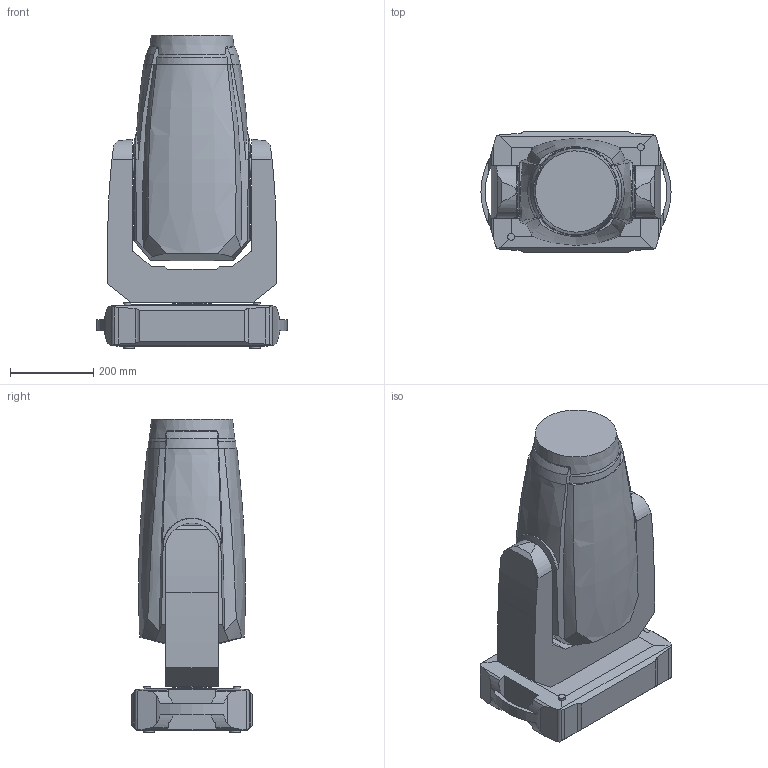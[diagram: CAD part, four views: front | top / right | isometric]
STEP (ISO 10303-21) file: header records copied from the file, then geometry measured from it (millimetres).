
FILE_DESCRIPTION(/* description */ ('Unknown'),/* implementation_level */ '2;1');
FILE_NAME(/* name */ '3D_Robin iEsprite-01',/* time_stamp */ '2023-11-13T15:16:42+01:00',/* author */ ('Unknown'),/* organization */ ('Unknown'),/* preprocessor_version */ 'ST-DEVELOPER v18.104',/* originating_system */ 'Solid Edge',/* authorisation */ 'Unknown');
FILE_SCHEMA (('AUTOMOTIVE_DESIGN {1 0 10303 214 3 1 1}'));
Length unit declared in the file: millimetre
Products named in the file (4): 3D_Robin iEsprite; iEsprite_Base; iEsprite_Arm; iEsprite_Head
Assembly tree (3 placements, depth 2):
  3D_Robin iEsprite
    iEsprite_Base
    iEsprite_Arm
    iEsprite_Head
Bounding box: 457.87 x 289.25 x 754.45 mm (x, y, z)
Volume: 48209004.6 mm3; surface area: 1332004.4 mm2
Topology: 3 solids, 3 shells, 208 faces, 571 edges, 383 vertices
Faces by surface type: plane 99, cylinder 67, bspline 34, cone 7, torus 1
Full cylindrical faces by diameter (mm): 8.661 x8, 16.8 x2, 25.264 x4, 40 x1, 50 x2, 69 x1, 92.067 x1
Entity records: 13454 total; most frequent: CARTESIAN_POINT 8439, ORIENTED_EDGE 1082, DIRECTION 900, EDGE_CURVE 541, VERTEX_POINT 373, AXIS2_PLACEMENT_3D 335, EDGE_LOOP 248, FACE_BOUND 248
